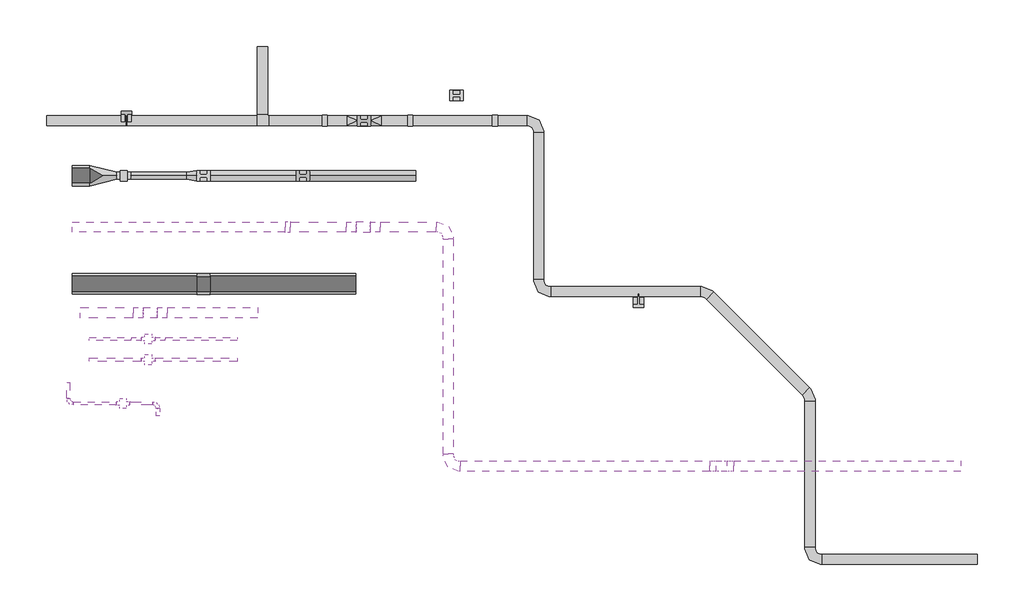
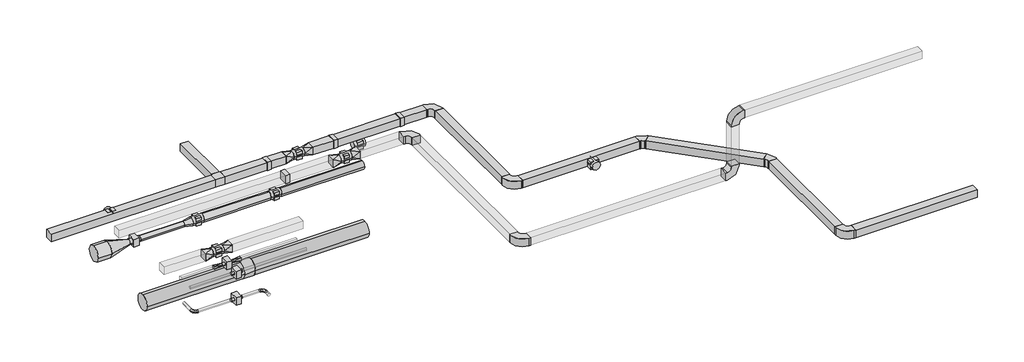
# One storey: 35 duct segments, 22 duct fittings, 17 dampers.
"""IFC4 building model written with IfcOpenShell, lengths in millimetres."""

from ifc_helpers import new_model, si_unit, point, frame, frame_2d, origin, place, context, project, spatial, polyline, circle_curve, trimmed, segment, composite_curve, outline, extrude, transform, mapped, element, save
from components import damper_0c93a5dd, damper_ff8d0813, damper_bce11e16, damper_74110298, damper_48ec160e, duct_fitting_2c290df5, duct_fitting_99cd3f61, duct_fitting_a30e5cd5, duct_fitting_a57c2913, duct_fitting_9d7b7e6b, duct_fitting_752f6e0b, duct_fitting_a8517f71, duct_fitting_1_5_d_8d1b72b4

model = new_model("IFC4")

# Units and contexts
model_context = context("Model", 3, world=origin())
ifc_project = project(units=[si_unit("LENGTHUNIT", "METRE", prefix="MILLI")], contexts=[model_context])

# Site, building, storey
site = spatial("IfcSite", under=ifc_project)
building = spatial("IfcBuilding", under=site)
storey = spatial("IfcBuildingStorey", under=building, Name="Уровень 1", Elevation=0.0)

# Dampers
placement = place(None, origin())
damper_shape = damper_0c93a5dd(model_context)
element("IfcDamper", 1, ObjectType="M_Противопожарный демпфер - Прямоугольный - Простой : Стандартное", at=placement, inside=storey, context=model_context, shape_type="MappedRepresentation", body=[
    mapped(damper_shape, transform((-9775.4202347, 9458.2450975, 2750.0), x_axis=(-1.0, 0.0, 0.0), y_axis=(0.0, 1.0, 0.0), z_axis=(0.0, 0.0, -1.0))),
])
element("IfcDamper", 2, ObjectType="M_Противопожарный демпфер - Прямоугольный - Простой : Стандартное", at=placement, inside=storey, context=model_context, shape_type="MappedRepresentation", body=[
    mapped(damper_shape, transform((-6189.1138294, 12570.5517507, 1000.0), x_axis=(-1.0, 0.0, 0.0), y_axis=(0.0, 1.0, 0.0), z_axis=(0.0, 0.0, -1.0))),
])
element("IfcDamper", 3, ObjectType="M_Противопожарный демпфер - Прямоугольный - Простой : Стандартное", at=placement, inside=storey, context=model_context, shape_type="MappedRepresentation", body=[
    mapped(damper_shape, transform((-8683.1649931, 12570.5517507, 1000.0), x_axis=(-1.0, 0.0, 0.0), y_axis=(0.0, 1.0, 0.0), z_axis=(0.0, 0.0, -1.0))),
])
element("IfcDamper", 4, ObjectType="M_Противопожарный демпфер - Прямоугольный - Простой : Стандартное", at=placement, inside=storey, context=model_context, shape_type="MappedRepresentation", body=[
    mapped(damper_shape, transform((-3705.3143272, 12570.5517507, 1000.0), x_axis=(1.0, 0.0, 0.0), y_axis=(0.0, -1.0, 0.0), z_axis=(0.0, 0.0, -1.0))),
])
damper_2_shape = damper_ff8d0813(model_context)
element("IfcDamper", 5, ObjectType="06_Клапан_Размер соединителя-2 : 02_Клапан_Геометрия", at=placement, inside=storey, context=model_context, shape_type="MappedRepresentation", body=[
    mapped(damper_2_shape, transform((-4834.007203, 13308.3419544, 0.0), x_axis=(1.0, 0.0, 0.0), y_axis=(0.0, 1.0, 0.0), z_axis=(0.0, 0.0, 1.0))),
])
element("IfcDamper", 6, ObjectType="06_Клапан_Размер соединителя-2 : 02_Клапан_Геометрия", at=placement, inside=storey, context=model_context, shape_type="MappedRepresentation", body=[
    mapped(damper_2_shape, transform((-14494.7036197, 12645.5517507, 1000.0), x_axis=(0.0, 1.0, 0.0), y_axis=(-1.0, 0.0, 0.0), z_axis=(0.0, 0.0, 1.0))),
])
element("IfcDamper", 7, ObjectType="06_Клапан_Размер соединителя-2 : 02_Клапан_Геометрия", at=placement, inside=storey, context=model_context, shape_type="MappedRepresentation", body=[
    mapped(damper_2_shape, transform((493.946574, 7295.5517507, 1000.0), x_axis=(0.0, -1.0, 0.0), y_axis=(1.0, 0.0, 0.0), z_axis=(0.0, 0.0, 1.0))),
])
element("IfcDamper", 8, ObjectType="06_Клапан_Размер соединителя-2 : 02_Клапан_Геометрия", at=placement, inside=storey, context=model_context, shape_type="MappedRepresentation", body=[
    mapped(damper_2_shape, transform((-7536.501235, 12570.5517507, 1000.0), x_axis=(-1.0, 0.0, 0.0), y_axis=(0.0, 1.0, 0.0), z_axis=(0.0, 0.0, -1.0))),
])
element("IfcDamper", 9, ObjectType="06_Клапан_Размер соединителя-2 : 02_Клапан_Геометрия", at=placement, inside=storey, context=model_context, shape_type="MappedRepresentation", body=[
    mapped(damper_2_shape, transform((-7563.4194422, 9458.2450975, 2750.0), x_axis=(-1.0, 0.0, 0.0), y_axis=(0.0, 1.0, 0.0), z_axis=(0.0, 0.0, -1.0))),
])
element("IfcDamper", 10, ObjectType="06_Клапан_Размер соединителя-2 : 02_Клапан_Геометрия", at=placement, inside=storey, context=model_context, shape_type="MappedRepresentation", body=[
    mapped(damper_2_shape, transform((-9321.3648344, 10960.1974756, 1000.0), x_axis=(-1.0, 0.0, 0.0), y_axis=(0.0, 1.0, 0.0), z_axis=(0.0, 0.0, -1.0))),
])
element("IfcDamper", 11, ObjectType="06_Клапан_Размер соединителя-2 : 02_Клапан_Геометрия", at=placement, inside=storey, context=model_context, shape_type="MappedRepresentation", body=[
    mapped(damper_2_shape, transform((-12231.8206268, 10960.1974756, 1000.0), x_axis=(1.0, 0.0, 0.0), y_axis=(0.0, -1.0, 0.0), z_axis=(0.0, 0.0, -1.0))),
])
element("IfcDamper", 12, ObjectType="06_Клапан_Размер соединителя-2 : 02_Клапан_Геометрия", at=placement, inside=storey, context=model_context, shape_type="MappedRepresentation", body=[
    mapped(damper_2_shape, transform((-13795.6135805, 6945.790393, 2750.0), x_axis=(-1.0, 0.0, 0.0), y_axis=(0.0, 1.0, 0.0), z_axis=(0.0, 0.0, -1.0))),
])
damper_3_shape = damper_bce11e16(model_context)
element("IfcDamper", 13, ObjectType="06_Клапан_Размер соединителя-2 : 02_Клапан_Геометрия", at=placement, inside=storey, context=model_context, shape_type="MappedRepresentation", body=[
    mapped(damper_3_shape, transform((-14568.1259124, 10960.1974756, 1000.0), x_axis=(1.0, 0.0, 0.0), y_axis=(0.0, -1.0, 0.0), z_axis=(0.0, 0.0, -1.0))),
])
damper_4_shape = damper_74110298(model_context)
element("IfcDamper", 14, ObjectType="06_Клапан_Размер соединителя-2 : 02_Клапан_Геометрия", at=placement, inside=storey, context=model_context, shape_type="MappedRepresentation", body=[
    mapped(damper_4_shape, transform((-12231.8206268, 7794.5757224, 1000.0), x_axis=(-1.0, 0.0, 0.0), y_axis=(0.0, 1.0, 0.0), z_axis=(0.0, 0.0, -1.0))),
])
damper_5_shape = damper_48ec160e(model_context)
element("IfcDamper", 15, ObjectType="06_Клапан_Размер соединителя-2 : 02_Клапан_Геометрия", at=placement, inside=storey, context=model_context, shape_type="MappedRepresentation", body=[
    mapped(damper_5_shape, transform((-13851.8196439, 6179.5294121, 2750.0), x_axis=(-1.0, 0.0, 0.0), y_axis=(0.0, 1.0, 0.0), z_axis=(0.0, 0.0, -1.0))),
])
element("IfcDamper", 16, ObjectType="06_Клапан_Размер соединителя-2 : 02_Клапан_Геометрия", at=placement, inside=storey, context=model_context, shape_type="MappedRepresentation", body=[
    mapped(damper_5_shape, transform((-13851.8196439, 5570.4133082, 2750.0), x_axis=(-1.0, 0.0, 0.0), y_axis=(0.0, 1.0, 0.0), z_axis=(0.0, 0.0, -1.0))),
])
element("IfcDamper", 17, ObjectType="06_Клапан_Размер соединителя-2 : 02_Клапан_Геометрия", at=placement, inside=storey, context=model_context, shape_type="MappedRepresentation", body=[
    mapped(damper_5_shape, transform((-14592.4563214, 4293.0138469, 2750.0), x_axis=(1.0, 0.0, 0.0), y_axis=(0.0, 1.0, 0.0), z_axis=(0.0, 0.0, 1.0))),
])

# Duct fittings
duct_fitting_shape = duct_fitting_2c290df5(model_context)
element("IfcDuctFitting", 18, ObjectType="M_Тройник прямоугольного сечения : Стандартное", at=placement, inside=storey, context=model_context, shape_type="MappedRepresentation", body=[
    mapped(duct_fitting_shape, transform((-10506.2349188, 12570.5517507, 1000.0), x_axis=(-1.0, 0.0, 0.0), y_axis=(0.0, -1.0, 0.0), z_axis=(0.0, 0.0, 1.0))),
])
duct_fitting_2_shape = duct_fitting_99cd3f61(model_context)
element("IfcDuctFitting", 19, ObjectType="Отвод прямоугольного сечения : Стандартное", at=placement, inside=storey, context=model_context, shape_type="MappedRepresentation", body=[
    mapped(duct_fitting_2_shape, transform((-5076.4186496, 9458.2450975, 2750.0), x_axis=(0.0, 1.0, 0.0), y_axis=(-1.0, 0.0, 0.0), z_axis=(0.0, 0.0, 1.0))),
])
element("IfcDuctFitting", 20, ObjectType="Отвод прямоугольного сечения : Стандартное", at=placement, inside=storey, context=model_context, shape_type="MappedRepresentation", body=[
    mapped(duct_fitting_2_shape, transform((-5076.4186496, 2458.2450975, 2750.0), x_axis=(0.0, -1.0, 0.0), y_axis=(1.0, 0.0, 0.0), z_axis=(0.0, 0.0, 1.0))),
])
element("IfcDuctFitting", 21, ObjectType="Отвод прямоугольного сечения : Стандартное", at=placement, inside=storey, context=model_context, shape_type="MappedRepresentation", body=[
    mapped(duct_fitting_2_shape, transform((2923.5813504, 2458.2450975, 2750.0), x_axis=(1.0, 0.0, 0.0), y_axis=(0.0, 0.0, 1.0), z_axis=(0.0, -1.0, 0.0))),
])
element("IfcDuctFitting", 22, ObjectType="Отвод прямоугольного сечения : Стандартное", at=placement, inside=storey, context=model_context, shape_type="MappedRepresentation", body=[
    mapped(duct_fitting_2_shape, transform((2923.5813504, 2458.2450975, 5000.0), x_axis=(0.0, 0.0, 1.0), y_axis=(1.0, 0.0, 0.0), z_axis=(0.0, 1.0, 0.0))),
])
element("IfcDuctFitting", 23, ObjectType="Отвод прямоугольного сечения : Стандартное", at=placement, inside=storey, context=model_context, shape_type="MappedRepresentation", body=[
    mapped(duct_fitting_2_shape, transform((-2428.4587957, 7570.5517507, 1000.0), x_axis=(0.0, -1.0, 0.0), y_axis=(1.0, 0.0, 0.0), z_axis=(0.0, 0.0, 1.0))),
])
element("IfcDuctFitting", 24, ObjectType="Отвод прямоугольного сечения : Стандартное", at=placement, inside=storey, context=model_context, shape_type="MappedRepresentation", body=[
    mapped(duct_fitting_2_shape, transform((5512.1003634, -270.0074084, 1000.0), x_axis=(0.0, -1.0, 0.0), y_axis=(1.0, 0.0, 0.0), z_axis=(0.0, 0.0, 1.0))),
])
element("IfcDuctFitting", 25, ObjectType="Отвод прямоугольного сечения : Стандартное", at=placement, inside=storey, context=model_context, shape_type="MappedRepresentation", body=[
    mapped(duct_fitting_2_shape, transform((-2428.4587957, 12570.5517507, 1000.0), x_axis=(0.0, 1.0, 0.0), y_axis=(-1.0, 0.0, 0.0), z_axis=(0.0, 0.0, 1.0))),
])
duct_fitting_3_shape = duct_fitting_a30e5cd5(model_context)
element("IfcDuctFitting", 26, ObjectType="Отвод прямоугольного сечения : Стандартное", at=placement, inside=storey, context=model_context, shape_type="MappedRepresentation", body=[
    mapped(duct_fitting_3_shape, transform((2471.5412043, 7570.5517507, 1000.0), x_axis=(-0.7071067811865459, 0.7071067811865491, 0.0), y_axis=(-0.7071067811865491, -0.7071067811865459, 0.0), z_axis=(0.0, 0.0, 1.0))),
])
element("IfcDuctFitting", 27, ObjectType="Отвод прямоугольного сечения : Стандартное", at=placement, inside=storey, context=model_context, shape_type="MappedRepresentation", body=[
    mapped(duct_fitting_3_shape, transform((5512.1003634, 4529.9925916, 1000.0), x_axis=(0.0, 1.0, 0.0), y_axis=(-1.0, 0.0, 0.0), z_axis=(0.0, 0.0, 1.0))),
])
duct_fitting_4_shape = duct_fitting_a57c2913(model_context)
element("IfcDuctFitting", 28, ObjectType="Переходник с круглого на прямоугольное сечение - Длина : Стандартное", at=placement, inside=storey, context=model_context, shape_type="MappedRepresentation", body=[
    mapped(duct_fitting_4_shape, transform((-7036.501235, 12570.5517507, 1000.0), x_axis=(-1.0, 0.0, 0.0), y_axis=(0.0, -1.0, 0.0), z_axis=(0.0, 0.0, 1.0))),
])
element("IfcDuctFitting", 29, ObjectType="Переходник с круглого на прямоугольное сечение - Длина : Стандартное", at=placement, inside=storey, context=model_context, shape_type="MappedRepresentation", body=[
    mapped(duct_fitting_4_shape, transform((-8036.501235, 12570.5517507, 1000.0), x_axis=(1.0, 0.0, 0.0), y_axis=(0.0, 1.0, 0.0), z_axis=(0.0, 0.0, 1.0))),
])
element("IfcDuctFitting", 30, ObjectType="Переходник с круглого на прямоугольное сечение - Длина : Стандартное", at=placement, inside=storey, context=model_context, shape_type="MappedRepresentation", body=[
    mapped(duct_fitting_4_shape, transform((-7063.4194422, 9458.2450975, 2750.0), x_axis=(-1.0, 0.0, 0.0), y_axis=(0.0, -1.0, 0.0), z_axis=(0.0, 0.0, 1.0))),
])
element("IfcDuctFitting", 31, ObjectType="Переходник с круглого на прямоугольное сечение - Длина : Стандартное", at=placement, inside=storey, context=model_context, shape_type="MappedRepresentation", body=[
    mapped(duct_fitting_4_shape, transform((-8063.4194422, 9458.2450975, 2750.0), x_axis=(1.0, 0.0, 0.0), y_axis=(0.0, 1.0, 0.0), z_axis=(0.0, 0.0, 1.0))),
])
element("IfcDuctFitting", 32, ObjectType="Переходник с круглого на прямоугольное сечение - Длина : Стандартное", at=placement, inside=storey, context=model_context, shape_type="MappedRepresentation", body=[
    mapped(duct_fitting_4_shape, transform((-14295.6135805, 6945.790393, 2750.0), x_axis=(1.0, 0.0, 0.0), y_axis=(0.0, 1.0, 0.0), z_axis=(0.0, 0.0, 1.0))),
])
element("IfcDuctFitting", 33, ObjectType="Переходник с круглого на прямоугольное сечение - Длина : Стандартное", at=placement, inside=storey, context=model_context, shape_type="MappedRepresentation", body=[
    mapped(duct_fitting_4_shape, transform((-13295.6135805, 6945.790393, 2750.0), x_axis=(-1.0, 0.0, 0.0), y_axis=(0.0, -1.0, 0.0), z_axis=(0.0, 0.0, 1.0))),
])
duct_fitting_5_shape = duct_fitting_9d7b7e6b(model_context)
element("IfcDuctFitting", 34, ObjectType="Переходник круглого сечения - Длина : Стандартное", at=placement, inside=storey, context=model_context, shape_type="MappedRepresentation", body=[
    mapped(duct_fitting_5_shape, transform((-12431.8206268, 10960.1974756, 1000.0), x_axis=(-1.0, 0.0, 0.0), y_axis=(0.0, -1.0, 0.0), z_axis=(0.0, 0.0, 1.0))),
])
duct_fitting_6_shape = duct_fitting_752f6e0b(model_context)
element("IfcDuctFitting", 35, ObjectType="Переходник круглого сечения - Длина : Стандартное", at=placement, inside=storey, context=model_context, shape_type="MappedRepresentation", body=[
    mapped(duct_fitting_6_shape, transform((-14768.1259124, 10960.1974756, 1000.0), x_axis=(-1.0, 0.0, 0.0), y_axis=(0.0, -1.0, 0.0), z_axis=(0.0, 0.0, 1.0))),
])
duct_fitting_7_shape = duct_fitting_a8517f71(model_context)
element("IfcDuctFitting", 36, ObjectType="Переходник с круглого на прямоугольное сечение - Длина : Стандартное", at=placement, inside=storey, context=model_context, shape_type="MappedRepresentation", body=[
    mapped(duct_fitting_7_shape, transform((-13351.8196439, 6179.5294121, 2750.0), x_axis=(-1.0, 0.0, 0.0), y_axis=(0.0, -1.0, 0.0), z_axis=(0.0, 0.0, 1.0))),
])
element("IfcDuctFitting", 37, ObjectType="Переходник с круглого на прямоугольное сечение - Длина : Стандартное", at=placement, inside=storey, context=model_context, shape_type="MappedRepresentation", body=[
    mapped(duct_fitting_7_shape, transform((-14351.8196439, 6179.5294121, 2750.0), x_axis=(1.0, 0.0, 0.0), y_axis=(0.0, 1.0, 0.0), z_axis=(0.0, 0.0, 1.0))),
])
duct_fitting_1_5_d_shape = duct_fitting_1_5_d_8d1b72b4(model_context)
element("IfcDuctFitting", 38, ObjectType="M_Отвод круглого сечения : 1.5 D", at=placement, inside=storey, context=model_context, shape_type="MappedRepresentation", body=[
    mapped(duct_fitting_1_5_d_shape, transform((-16192.4563214, 4293.0138469, 2750.0), x_axis=(0.0, -1.0, 0.0), y_axis=(1.0, 0.0, 0.0), z_axis=(0.0, 0.0, 1.0))),
])
element("IfcDuctFitting", 39, ObjectType="M_Отвод круглого сечения : 1.5 D", at=placement, inside=storey, context=model_context, shape_type="MappedRepresentation", body=[
    mapped(duct_fitting_1_5_d_shape, transform((-13572.4563214, 4293.0138469, 2750.0), x_axis=(0.0, 1.0, 0.0), y_axis=(-1.0, 0.0, 0.0), z_axis=(0.0, 0.0, 1.0))),
])

# Duct segments
element("IfcDuctSegment", 40, ObjectType="Закругленные отводы / тройники", at=placement, inside=storey, context=model_context, shape_type="SweptSolid", body=[
    extrude(outline(polyline([(-7063.4194422, 9308.2450975), (-7063.4194422, 9608.2450975), (-5426.4186496, 9608.2450975), (-5426.4186496, 9308.2450975), (-7063.4194422, 9308.2450975)])), frame((0.0, 0.0, 2600.0), z_axis=(0.0, 0.0, 1.0), x_axis=(1.0, 0.0, 0.0)), (0.0, 0.0, 1.0), 300.0),
])
element("IfcDuctSegment", 41, ObjectType="Закругленные отводы / тройники", at=placement, inside=storey, context=model_context, shape_type="SweptSolid", body=[
    extrude(outline(polyline([(-5226.4186496, 9108.2450975), (-4926.4186496, 9108.2450975), (-4926.4186496, 2808.2450975), (-5226.4186496, 2808.2450975), (-5226.4186496, 9108.2450975)])), frame((0.0, 0.0, 2600.0), z_axis=(0.0, 0.0, 1.0), x_axis=(1.0, 0.0, 0.0)), (0.0, 0.0, 1.0), 300.0),
])
element("IfcDuctSegment", 42, ObjectType="Закругленные отводы / тройники", at=placement, inside=storey, context=model_context, shape_type="SweptSolid", body=[
    extrude(outline(polyline([(-4726.4186496, 2308.2450975), (-4726.4186496, 2608.2450975), (2573.5813504, 2608.2450975), (2573.5813504, 2308.2450975), (-4726.4186496, 2308.2450975)])), frame((0.0, 0.0, 2600.0), z_axis=(0.0, 0.0, 1.0), x_axis=(1.0, 0.0, 0.0)), (0.0, 0.0, 1.0), 300.0),
])
element("IfcDuctSegment", 43, ObjectType="Закругленные отводы / тройники", at=placement, inside=storey, context=model_context, shape_type="SweptSolid", body=[
    extrude(outline(polyline([(3273.5813504, 2308.2450975), (3273.5813504, 2608.2450975), (9923.5813504, 2608.2450975), (9923.5813504, 2308.2450975), (3273.5813504, 2308.2450975)])), frame((0.0, 0.0, 4850.0), z_axis=(0.0, 0.0, 1.0), x_axis=(1.0, 0.0, 0.0)), (0.0, 0.0, 1.0), 300.0),
])
element("IfcDuctSegment", 44, ObjectType="Закругленные отводы / тройники", at=placement, inside=storey, context=model_context, shape_type="SweptSolid", body=[
    extrude(outline(polyline([(3073.5813504, 2608.2450975), (3073.5813504, 2308.2450975), (2773.5813504, 2308.2450975), (2773.5813504, 2608.2450975), (3073.5813504, 2608.2450975)])), frame((0.0, 0.0, 3100.0), z_axis=(0.0, 0.0, 1.0), x_axis=(1.0, 0.0, 0.0)), (0.0, 0.0, 1.0), 1550.0),
])
element("IfcDuctSegment", 45, ObjectType="Закругленные отводы / тройники", at=placement, inside=storey, context=model_context, shape_type="SweptSolid", body=[
    extrude(outline(polyline([(-16076.4186496, 9308.2450975), (-16076.4186496, 9608.2450975), (-9850.4202347, 9608.2450975), (-9850.4202347, 9308.2450975), (-16076.4186496, 9308.2450975)])), frame((0.0, 0.0, 2600.0), z_axis=(0.0, 0.0, 1.0), x_axis=(1.0, 0.0, 0.0)), (0.0, 0.0, 1.0), 300.0),
])
element("IfcDuctSegment", 46, ObjectType="Закругленные отводы / тройники", at=placement, inside=storey, context=model_context, shape_type="SweptSolid", body=[
    extrude(outline(polyline([(-3780.3143272, 12720.5517507), (-3780.3143272, 12420.5517507), (-6114.1138294, 12420.5517507), (-6114.1138294, 12720.5517507), (-3780.3143272, 12720.5517507)])), frame((0.0, 0.0, 850.0), z_axis=(0.0, 0.0, 1.0), x_axis=(1.0, 0.0, 0.0)), (0.0, 0.0, 1.0), 300.0),
])
element("IfcDuctSegment", 47, ObjectType="Закругленные отводы / тройники", at=placement, inside=storey, context=model_context, shape_type="SweptSolid", body=[
    extrude(outline(polyline([(-2578.4587957, 12220.5517507), (-2278.4587957, 12220.5517507), (-2278.4587957, 7920.5517507), (-2578.4587957, 7920.5517507), (-2578.4587957, 12220.5517507)])), frame((0.0, 0.0, 850.0), z_axis=(0.0, 0.0, 1.0), x_axis=(1.0, 0.0, 0.0)), (0.0, 0.0, 1.0), 300.0),
])
element("IfcDuctSegment", 48, ObjectType="Закругленные отводы / тройники", at=placement, inside=storey, context=model_context, shape_type="SweptSolid", body=[
    extrude(outline(polyline([(-2078.4587957, 7420.5517507), (-2078.4587957, 7720.5517507), (2297.2771355, 7720.5517507), (2297.2771355, 7420.5517507), (-2078.4587957, 7420.5517507)])), frame((0.0, 0.0, 850.0), z_axis=(0.0, 0.0, 1.0), x_axis=(1.0, 0.0, 0.0)), (0.0, 0.0, 1.0), 300.0),
])
element("IfcDuctSegment", 49, ObjectType="Закругленные отводы / тройники", at=placement, inside=storey, context=model_context, shape_type="SweptSolid", body=[
    extrude(outline(polyline([(2488.6984918, 7341.2624289), (2700.8305261, 7553.3944632), (5494.9430758, 4759.2819135), (5282.8110415, 4547.1498792), (2488.6984918, 7341.2624289)])), frame((0.0, 0.0, 850.0), z_axis=(0.0, 0.0, 1.0), x_axis=(1.0, 0.0, 0.0)), (0.0, 0.0, 1.0), 300.0),
])
element("IfcDuctSegment", 50, ObjectType="Закругленные отводы / тройники", at=placement, inside=storey, context=model_context, shape_type="SweptSolid", body=[
    extrude(outline(polyline([(5362.1003634, 4355.7285229), (5662.1003634, 4355.7285229), (5662.1003634, 79.9925916), (5362.1003634, 79.9925916), (5362.1003634, 4355.7285229)])), frame((0.0, 0.0, 850.0), z_axis=(0.0, 0.0, 1.0), x_axis=(1.0, 0.0, 0.0)), (0.0, 0.0, 1.0), 300.0),
])
element("IfcDuctSegment", 51, ObjectType="Закругленные отводы / тройники", at=placement, inside=storey, context=model_context, shape_type="SweptSolid", body=[
    extrude(outline(polyline([(5862.1003634, -420.0074084), (5862.1003634, -120.0074084), (10412.1003634, -120.0074084), (10412.1003634, -420.0074084), (5862.1003634, -420.0074084)])), frame((0.0, 0.0, 850.0), z_axis=(0.0, 0.0, 1.0), x_axis=(1.0, 0.0, 0.0)), (0.0, 0.0, 1.0), 300.0),
])
element("IfcDuctSegment", 52, ObjectType="Закругленные отводы / тройники", at=placement, inside=storey, context=model_context, shape_type="SweptSolid", body=[
    extrude(outline(polyline([(-10356.2349188, 12745.5517507), (-10656.2349188, 12745.5517507), (-10656.2349188, 14745.5517507), (-10356.2349188, 14745.5517507), (-10356.2349188, 12745.5517507)])), frame((0.0, 0.0, 850.0), z_axis=(0.0, 0.0, 1.0), x_axis=(1.0, 0.0, 0.0)), (0.0, 0.0, 1.0), 300.0),
])
element("IfcDuctSegment", 53, ObjectType="Закругленные отводы / тройники", at=placement, inside=storey, context=model_context, shape_type="SweptSolid", body=[
    extrude(outline(polyline([(-7036.501235, 12420.5517507), (-7036.501235, 12720.5517507), (-6264.1138294, 12720.5517507), (-6264.1138294, 12420.5517507), (-7036.501235, 12420.5517507)])), frame((0.0, 0.0, 850.0), z_axis=(0.0, 0.0, 1.0), x_axis=(1.0, 0.0, 0.0)), (0.0, 0.0, 1.0), 300.0),
])
element("IfcDuctSegment", 54, ObjectType="Закругленные отводы / тройники", at=placement, inside=storey, context=model_context, shape_type="SweptSolid", body=[
    extrude(outline(polyline([(-10681.2349188, 12720.5517507), (-10681.2349188, 12420.5517507), (-16828.4587957, 12420.5517507), (-16828.4587957, 12720.5517507), (-10681.2349188, 12720.5517507)])), frame((0.0, 0.0, 850.0), z_axis=(0.0, 0.0, 1.0), x_axis=(1.0, 0.0, 0.0)), (0.0, 0.0, 1.0), 300.0),
])
element("IfcDuctSegment", 55, ObjectType="Закругленные отводы / тройники", at=placement, inside=storey, context=model_context, shape_type="SweptSolid", body=[
    extrude(outline(polyline([(-10331.2349188, 12420.5517507), (-10331.2349188, 12720.5517507), (-8758.1649931, 12720.5517507), (-8758.1649931, 12420.5517507), (-10331.2349188, 12420.5517507)])), frame((0.0, 0.0, 850.0), z_axis=(0.0, 0.0, 1.0), x_axis=(1.0, 0.0, 0.0)), (0.0, 0.0, 1.0), 300.0),
])
element("IfcDuctSegment", 56, ObjectType="Закругленные отводы / тройники", at=placement, inside=storey, context=model_context, shape_type="SweptSolid", body=[
    extrude(outline(polyline([(-8608.1649931, 12420.5517507), (-8608.1649931, 12720.5517507), (-8036.501235, 12720.5517507), (-8036.501235, 12420.5517507), (-8608.1649931, 12420.5517507)])), frame((0.0, 0.0, 850.0), z_axis=(0.0, 0.0, 1.0), x_axis=(1.0, 0.0, 0.0)), (0.0, 0.0, 1.0), 300.0),
])
element("IfcDuctSegment", 57, ObjectType="Закругленные отводы / тройники", at=placement, inside=storey, context=model_context, shape_type="SweptSolid", body=[
    extrude(outline(polyline([(-9700.4202347, 9308.2450975), (-9700.4202347, 9608.2450975), (-8063.4194422, 9608.2450975), (-8063.4194422, 9308.2450975), (-9700.4202347, 9308.2450975)])), frame((0.0, 0.0, 2600.0), z_axis=(0.0, 0.0, 1.0), x_axis=(1.0, 0.0, 0.0)), (0.0, 0.0, 1.0), 300.0),
])
element("IfcDuctSegment", 58, ObjectType="Закругленные отводы / тройники", at=placement, inside=storey, context=model_context, shape_type="SweptSolid", body=[
    extrude(outline(polyline([(-2778.4587957, 12720.5517507), (-2778.4587957, 12420.5517507), (-3630.3143272, 12420.5517507), (-3630.3143272, 12720.5517507), (-2778.4587957, 12720.5517507)])), frame((0.0, 0.0, 850.0), z_axis=(0.0, 0.0, 1.0), x_axis=(1.0, 0.0, 0.0)), (0.0, 0.0, 1.0), 300.0),
])
element("IfcDuctSegment", 59, ObjectType="Врезки", at=placement, inside=storey, context=model_context, shape_type="SweptSolid", body=[
    extrude(outline(composite_curve([segment(trimmed(circle_curve(frame_2d((10960.1974756, 1000.0)), 150.0), [point((10810.1974756, 1000.0))], [point((10960.1974756, 1150.0))], False, "CARTESIAN"), True, "CONTINUOUS"), segment(trimmed(circle_curve(frame_2d((10960.1974756, 1000.0)), 150.0), [point((10960.1974756, 1150.0))], [point((11110.1974756, 1000.0))], False, "CARTESIAN"), True, "CONTINUOUS"), segment(trimmed(circle_curve(frame_2d((10960.1974756, 1000.0)), 150.0), [point((11110.1974756, 1000.0))], [point((10960.1974756, 850.0))], False, "CARTESIAN"), True, "CONTINUOUS"), segment(trimmed(circle_curve(frame_2d((10960.1974756, 1000.0)), 150.0), [point((10960.1974756, 850.0))], [point((10810.1974756, 1000.0))], False, "CARTESIAN"), True, "CONTINUOUS")], self_intersect=False)), frame((-9121.3648344, 0.0, 0.0), z_axis=(1.0, 0.0, 0.0), x_axis=(0.0, 1.0, 0.0)), (0.0, 0.0, 1.0), 3090.2652968),
])
element("IfcDuctSegment", 60, ObjectType="Врезки", at=placement, inside=storey, context=model_context, shape_type="SweptSolid", body=[
    extrude(outline(composite_curve([segment(trimmed(circle_curve(frame_2d((10960.1974756, 1000.0)), 300.0), [point((11260.1974756, 1000.0))], [point((10960.1974756, 700.0))], False, "CARTESIAN"), True, "CONTINUOUS"), segment(trimmed(circle_curve(frame_2d((10960.1974756, 1000.0)), 300.0), [point((10960.1974756, 700.0))], [point((10660.1974756, 1000.0))], False, "CARTESIAN"), True, "CONTINUOUS"), segment(trimmed(circle_curve(frame_2d((10960.1974756, 1000.0)), 300.0), [point((10660.1974756, 1000.0))], [point((10960.1974756, 1300.0))], False, "CARTESIAN"), True, "CONTINUOUS"), segment(trimmed(circle_curve(frame_2d((10960.1974756, 1000.0)), 300.0), [point((10960.1974756, 1300.0))], [point((11260.1974756, 1000.0))], False, "CARTESIAN"), True, "CONTINUOUS")], self_intersect=False)), frame((-16076.4186496, 0.0, 0.0), z_axis=(1.0, 0.0, 0.0), x_axis=(0.0, 1.0, 0.0)), (0.0, 0.0, 1.0), 508.2927373),
])
element("IfcDuctSegment", 61, ObjectType="Врезки", at=placement, inside=storey, context=model_context, shape_type="SweptSolid", body=[
    extrude(outline(composite_curve([segment(trimmed(circle_curve(frame_2d((10960.1974756, 1000.0)), 150.0), [point((11110.1974756, 1000.0))], [point((10960.1974756, 850.0))], False, "CARTESIAN"), True, "CONTINUOUS"), segment(trimmed(circle_curve(frame_2d((10960.1974756, 1000.0)), 150.0), [point((10960.1974756, 850.0))], [point((10810.1974756, 1000.0))], False, "CARTESIAN"), True, "CONTINUOUS"), segment(trimmed(circle_curve(frame_2d((10960.1974756, 1000.0)), 150.0), [point((10810.1974756, 1000.0))], [point((10960.1974756, 1150.0))], False, "CARTESIAN"), True, "CONTINUOUS"), segment(trimmed(circle_curve(frame_2d((10960.1974756, 1000.0)), 150.0), [point((10960.1974756, 1150.0))], [point((11110.1974756, 1000.0))], False, "CARTESIAN"), True, "CONTINUOUS")], self_intersect=False)), frame((-12031.8206268, 0.0, 0.0), z_axis=(1.0, 0.0, 0.0), x_axis=(0.0, 1.0, 0.0)), (0.0, 0.0, 1.0), 2510.4557923),
])
element("IfcDuctSegment", 62, ObjectType="Врезки", at=placement, inside=storey, context=model_context, shape_type="SweptSolid", body=[
    extrude(outline(composite_curve([segment(trimmed(circle_curve(frame_2d((10960.1974756, 1000.0)), 100.0), [point((11060.1974756, 1000.0))], [point((10960.1974756, 900.0))], False, "CARTESIAN"), True, "CONTINUOUS"), segment(trimmed(circle_curve(frame_2d((10960.1974756, 1000.0)), 100.0), [point((10960.1974756, 900.0))], [point((10860.1974756, 1000.0))], False, "CARTESIAN"), True, "CONTINUOUS"), segment(trimmed(circle_curve(frame_2d((10960.1974756, 1000.0)), 100.0), [point((10860.1974756, 1000.0))], [point((10960.1974756, 1100.0))], False, "CARTESIAN"), True, "CONTINUOUS"), segment(trimmed(circle_curve(frame_2d((10960.1974756, 1000.0)), 100.0), [point((10960.1974756, 1100.0))], [point((11060.1974756, 1000.0))], False, "CARTESIAN"), True, "CONTINUOUS")], self_intersect=False)), frame((-14368.1259124, 0.0, 0.0), z_axis=(1.0, 0.0, 0.0), x_axis=(0.0, 1.0, 0.0)), (0.0, 0.0, 1.0), 1636.3052856),
])
element("IfcDuctSegment", 63, ObjectType="Врезки", at=placement, inside=storey, context=model_context, shape_type="SweptSolid", body=[
    extrude(outline(composite_curve([segment(trimmed(circle_curve(frame_2d((7794.5757224, 1000.0)), 300.0), [point((7494.5757224, 1000.0))], [point((7794.5757224, 1300.0))], False, "CARTESIAN"), True, "CONTINUOUS"), segment(trimmed(circle_curve(frame_2d((7794.5757224, 1000.0)), 300.0), [point((7794.5757224, 1300.0))], [point((8094.5757224, 1000.0))], False, "CARTESIAN"), True, "CONTINUOUS"), segment(trimmed(circle_curve(frame_2d((7794.5757224, 1000.0)), 300.0), [point((8094.5757224, 1000.0))], [point((7794.5757224, 700.0))], False, "CARTESIAN"), True, "CONTINUOUS"), segment(trimmed(circle_curve(frame_2d((7794.5757224, 1000.0)), 300.0), [point((7794.5757224, 700.0))], [point((7494.5757224, 1000.0))], False, "CARTESIAN"), True, "CONTINUOUS")], self_intersect=False)), frame((-12031.8206268, 0.0, 0.0), z_axis=(1.0, 0.0, 0.0), x_axis=(0.0, 1.0, 0.0)), (0.0, 0.0, 1.0), 4255.4019771),
])
element("IfcDuctSegment", 64, ObjectType="Врезки", at=placement, inside=storey, context=model_context, shape_type="SweptSolid", body=[
    extrude(outline(composite_curve([segment(trimmed(circle_curve(frame_2d((7794.5757224, 1000.0)), 300.0), [point((7494.5757224, 1000.0))], [point((7794.5757224, 1300.0))], False, "CARTESIAN"), True, "CONTINUOUS"), segment(trimmed(circle_curve(frame_2d((7794.5757224, 1000.0)), 300.0), [point((7794.5757224, 1300.0))], [point((8094.5757224, 1000.0))], False, "CARTESIAN"), True, "CONTINUOUS"), segment(trimmed(circle_curve(frame_2d((7794.5757224, 1000.0)), 300.0), [point((8094.5757224, 1000.0))], [point((7794.5757224, 700.0))], False, "CARTESIAN"), True, "CONTINUOUS"), segment(trimmed(circle_curve(frame_2d((7794.5757224, 1000.0)), 300.0), [point((7794.5757224, 700.0))], [point((7494.5757224, 1000.0))], False, "CARTESIAN"), True, "CONTINUOUS")], self_intersect=False)), frame((-16076.4186496, 0.0, 0.0), z_axis=(1.0, 0.0, 0.0), x_axis=(0.0, 1.0, 0.0)), (0.0, 0.0, 1.0), 3644.5980229),
])
element("IfcDuctSegment", 65, ObjectType="Закругленные отводы / тройники", at=placement, inside=storey, context=model_context, shape_type="SweptSolid", body=[
    extrude(outline(polyline([(-13295.6135805, 6795.790393), (-13295.6135805, 7095.790393), (-10645.8361338, 7095.790393), (-10645.8361338, 6795.790393), (-13295.6135805, 6795.790393)])), frame((0.0, 0.0, 2600.0), z_axis=(0.0, 0.0, 1.0), x_axis=(1.0, 0.0, 0.0)), (0.0, 0.0, 1.0), 300.0),
])
element("IfcDuctSegment", 66, ObjectType="Закругленные отводы / тройники", at=placement, inside=storey, context=model_context, shape_type="SweptSolid", body=[
    extrude(outline(polyline([(-15845.8361338, 6795.790393), (-15845.8361338, 7095.790393), (-14295.6135805, 7095.790393), (-14295.6135805, 6795.790393), (-15845.8361338, 6795.790393)])), frame((0.0, 0.0, 2600.0), z_axis=(0.0, 0.0, 1.0), x_axis=(1.0, 0.0, 0.0)), (0.0, 0.0, 1.0), 300.0),
])
element("IfcDuctSegment", 67, ObjectType="Закругленные отводы / тройники", at=placement, inside=storey, context=model_context, shape_type="SweptSolid", body=[
    extrude(outline(polyline([(-13351.8196439, 6129.5294121), (-13351.8196439, 6229.5294121), (-11245.8361338, 6229.5294121), (-11245.8361338, 6129.5294121), (-13351.8196439, 6129.5294121)])), frame((0.0, 0.0, 2700.0), z_axis=(0.0, 0.0, 1.0), x_axis=(1.0, 0.0, 0.0)), (0.0, 0.0, 1.0), 100.0),
])
element("IfcDuctSegment", 68, ObjectType="Закругленные отводы / тройники", at=placement, inside=storey, context=model_context, shape_type="SweptSolid", body=[
    extrude(outline(polyline([(-14351.8196439, 6229.5294121), (-14351.8196439, 6129.5294121), (-15584.7500753, 6129.5294121), (-15584.7500753, 6229.5294121), (-14351.8196439, 6229.5294121)])), frame((0.0, 0.0, 2700.0), z_axis=(0.0, 0.0, 1.0), x_axis=(1.0, 0.0, 0.0)), (0.0, 0.0, 1.0), 100.0),
])
element("IfcDuctSegment", 69, ObjectType="Врезки", at=placement, inside=storey, context=model_context, shape_type="SweptSolid", body=[
    extrude(outline(composite_curve([segment(trimmed(circle_curve(frame_2d((5570.4133082, 2750.0)), 50.0), [point((5520.4133082, 2750.0))], [point((5570.4133082, 2800.0))], False, "CARTESIAN"), True, "CONTINUOUS"), segment(trimmed(circle_curve(frame_2d((5570.4133082, 2750.0)), 50.0), [point((5570.4133082, 2800.0))], [point((5620.4133082, 2750.0))], False, "CARTESIAN"), True, "CONTINUOUS"), segment(trimmed(circle_curve(frame_2d((5570.4133082, 2750.0)), 50.0), [point((5620.4133082, 2750.0))], [point((5570.4133082, 2700.0))], False, "CARTESIAN"), True, "CONTINUOUS"), segment(trimmed(circle_curve(frame_2d((5570.4133082, 2750.0)), 50.0), [point((5570.4133082, 2700.0))], [point((5520.4133082, 2750.0))], False, "CARTESIAN"), True, "CONTINUOUS")], self_intersect=False)), frame((-15584.7500753, 0.0, 0.0), z_axis=(1.0, 0.0, 0.0), x_axis=(0.0, 1.0, 0.0)), (0.0, 0.0, 1.0), 1532.9304314),
])
element("IfcDuctSegment", 70, ObjectType="Врезки", at=placement, inside=storey, context=model_context, shape_type="SweptSolid", body=[
    extrude(outline(composite_curve([segment(trimmed(circle_curve(frame_2d((5570.4133082, 2750.0)), 50.0), [point((5520.4133082, 2750.0))], [point((5570.4133082, 2800.0))], False, "CARTESIAN"), True, "CONTINUOUS"), segment(trimmed(circle_curve(frame_2d((5570.4133082, 2750.0)), 50.0), [point((5570.4133082, 2800.0))], [point((5620.4133082, 2750.0))], False, "CARTESIAN"), True, "CONTINUOUS"), segment(trimmed(circle_curve(frame_2d((5570.4133082, 2750.0)), 50.0), [point((5620.4133082, 2750.0))], [point((5570.4133082, 2700.0))], False, "CARTESIAN"), True, "CONTINUOUS"), segment(trimmed(circle_curve(frame_2d((5570.4133082, 2750.0)), 50.0), [point((5570.4133082, 2700.0))], [point((5520.4133082, 2750.0))], False, "CARTESIAN"), True, "CONTINUOUS")], self_intersect=False)), frame((-13651.8196439, 0.0, 0.0), z_axis=(1.0, 0.0, 0.0), x_axis=(0.0, 1.0, 0.0)), (0.0, 0.0, 1.0), 2405.9835101),
])
element("IfcDuctSegment", 71, ObjectType="Врезки", at=placement, inside=storey, context=model_context, shape_type="SweptSolid", body=[
    extrude(outline(composite_curve([segment(trimmed(circle_curve(frame_2d((4293.0138469, 2750.0)), 50.0), [point((4343.0138469, 2750.0))], [point((4293.0138469, 2700.0))], False, "CARTESIAN"), True, "CONTINUOUS"), segment(trimmed(circle_curve(frame_2d((4293.0138469, 2750.0)), 50.0), [point((4293.0138469, 2700.0))], [point((4243.0138469, 2750.0))], False, "CARTESIAN"), True, "CONTINUOUS"), segment(trimmed(circle_curve(frame_2d((4293.0138469, 2750.0)), 50.0), [point((4243.0138469, 2750.0))], [point((4293.0138469, 2800.0))], False, "CARTESIAN"), True, "CONTINUOUS"), segment(trimmed(circle_curve(frame_2d((4293.0138469, 2750.0)), 50.0), [point((4293.0138469, 2800.0))], [point((4343.0138469, 2750.0))], False, "CARTESIAN"), True, "CONTINUOUS")], self_intersect=False)), frame((-16042.4563214, 0.0, 0.0), z_axis=(1.0, 0.0, 0.0), x_axis=(0.0, 1.0, 0.0)), (0.0, 0.0, 1.0), 1250.0),
])
element("IfcDuctSegment", 72, ObjectType="Врезки", at=placement, inside=storey, context=model_context, shape_type="SweptSolid", body=[
    extrude(outline(composite_curve([segment(trimmed(circle_curve(frame_2d((2750.0, -16192.4563214)), 50.0), [point((2750.0, -16142.4563214))], [point((2800.0, -16192.4563214))], False, "CARTESIAN"), True, "CONTINUOUS"), segment(trimmed(circle_curve(frame_2d((2750.0, -16192.4563214)), 50.0), [point((2800.0, -16192.4563214))], [point((2750.0, -16242.4563214))], False, "CARTESIAN"), True, "CONTINUOUS"), segment(trimmed(circle_curve(frame_2d((2750.0, -16192.4563214)), 50.0), [point((2750.0, -16242.4563214))], [point((2700.0, -16192.4563214))], False, "CARTESIAN"), True, "CONTINUOUS"), segment(trimmed(circle_curve(frame_2d((2750.0, -16192.4563214)), 50.0), [point((2700.0, -16192.4563214))], [point((2750.0, -16142.4563214))], False, "CARTESIAN"), True, "CONTINUOUS")], self_intersect=False)), frame((0.0, 4443.0138469, 0.0), z_axis=(0.0, 1.0, 0.0), x_axis=(0.0, 0.0, 1.0)), (0.0, 0.0, 1.0), 470.0),
])
element("IfcDuctSegment", 73, ObjectType="Врезки", at=placement, inside=storey, context=model_context, shape_type="SweptSolid", body=[
    extrude(outline(composite_curve([segment(trimmed(circle_curve(frame_2d((4293.0138469, 2750.0)), 50.0), [point((4243.0138469, 2750.0))], [point((4293.0138469, 2800.0))], False, "CARTESIAN"), True, "CONTINUOUS"), segment(trimmed(circle_curve(frame_2d((4293.0138469, 2750.0)), 50.0), [point((4293.0138469, 2800.0))], [point((4343.0138469, 2750.0))], False, "CARTESIAN"), True, "CONTINUOUS"), segment(trimmed(circle_curve(frame_2d((4293.0138469, 2750.0)), 50.0), [point((4343.0138469, 2750.0))], [point((4293.0138469, 2700.0))], False, "CARTESIAN"), True, "CONTINUOUS"), segment(trimmed(circle_curve(frame_2d((4293.0138469, 2750.0)), 50.0), [point((4293.0138469, 2700.0))], [point((4243.0138469, 2750.0))], False, "CARTESIAN"), True, "CONTINUOUS")], self_intersect=False)), frame((-14392.4563214, 0.0, 0.0), z_axis=(1.0, 0.0, 0.0), x_axis=(0.0, 1.0, 0.0)), (0.0, 0.0, 1.0), 670.0),
])
element("IfcDuctSegment", 74, ObjectType="Врезки", at=placement, inside=storey, context=model_context, shape_type="SweptSolid", body=[
    extrude(outline(composite_curve([segment(trimmed(circle_curve(frame_2d((2750.0, -13572.4563214)), 50.0), [point((2750.0, -13622.4563214))], [point((2700.0, -13572.4563214))], False, "CARTESIAN"), True, "CONTINUOUS"), segment(trimmed(circle_curve(frame_2d((2750.0, -13572.4563214)), 50.0), [point((2700.0, -13572.4563214))], [point((2750.0, -13522.4563214))], False, "CARTESIAN"), True, "CONTINUOUS"), segment(trimmed(circle_curve(frame_2d((2750.0, -13572.4563214)), 50.0), [point((2750.0, -13522.4563214))], [point((2800.0, -13572.4563214))], False, "CARTESIAN"), True, "CONTINUOUS"), segment(trimmed(circle_curve(frame_2d((2750.0, -13572.4563214)), 50.0), [point((2800.0, -13572.4563214))], [point((2750.0, -13622.4563214))], False, "CARTESIAN"), True, "CONTINUOUS")], self_intersect=False)), frame((0.0, 3933.0138469, 0.0), z_axis=(0.0, 1.0, 0.0), x_axis=(0.0, 0.0, 1.0)), (0.0, 0.0, 1.0), 210.0),
])

save(model, "model.ifc")
